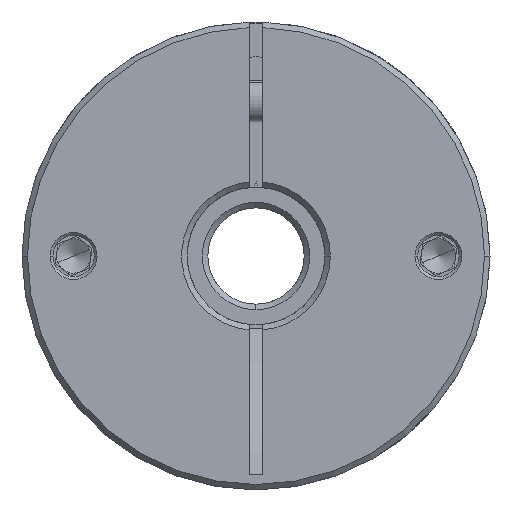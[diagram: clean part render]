
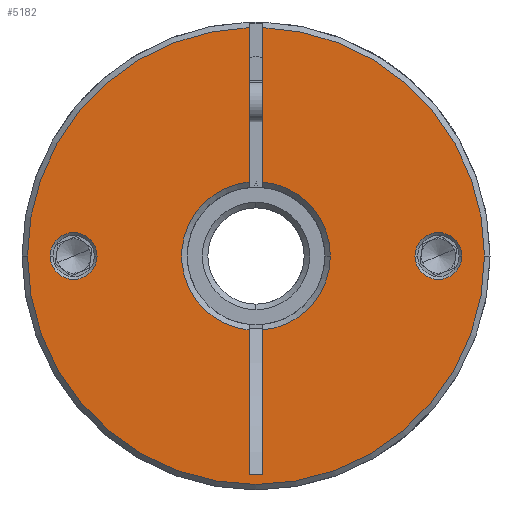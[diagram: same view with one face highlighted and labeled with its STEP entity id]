
A CAD part, front view. The second image highlights one B-rep face of the part: STEP entity #5182.
In plain terms, the highlighted planar face has unit normal (0, -1, 0).
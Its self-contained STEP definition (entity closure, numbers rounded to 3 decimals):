
#14 = CARTESIAN_POINT ( 'NONE',  ( -3.735, -47.045, 36.279 ) ) ;
#47 = VECTOR ( 'NONE', #4157, 1000. ) ;
#48 = AXIS2_PLACEMENT_3D ( 'NONE', #8144, #10323, #11430 ) ;
#76 = EDGE_CURVE ( 'NONE', #8472, #11992, #10168, .T. ) ;
#113 = EDGE_CURVE ( 'NONE', #2655, #11622, #7680, .T. ) ;
#142 = CARTESIAN_POINT ( 'NONE',  ( -35.935, -47.045, 68. ) ) ;
#325 = ORIENTED_EDGE ( 'NONE', *, *, #4944, .T. ) ;
#333 = LINE ( 'NONE', #9952, #10366 ) ;
#341 = DIRECTION ( 'NONE',  ( 1., 0., 0. ) ) ;
#368 = CIRCLE ( 'NONE', #664, 10.8 ) ;
#401 = AXIS2_PLACEMENT_3D ( 'NONE', #4446, #1443, #8761 ) ;
#582 = LINE ( 'NONE', #13014, #10116 ) ;
#654 = CARTESIAN_POINT ( 'NONE',  ( -32.635, -47.045, 68. ) ) ;
#664 = AXIS2_PLACEMENT_3D ( 'NONE', #4109, #956, #11479 ) ;
#808 = CARTESIAN_POINT ( 'NONE',  ( -1.735, -47.045, 36.279 ) ) ;
#956 = DIRECTION ( 'NONE',  ( 0., 1., 0. ) ) ;
#966 = ORIENTED_EDGE ( 'NONE', *, *, #1874, .F. ) ;
#1007 = AXIS2_PLACEMENT_3D ( 'NONE', #3441, #6648, #341 ) ;
#1041 = CIRCLE ( 'NONE', #5255, 3.4 ) ;
#1067 = LINE ( 'NONE', #3018, #3210 ) ;
#1408 = DIRECTION ( 'NONE',  ( 0., 0., -1. ) ) ;
#1443 = DIRECTION ( 'NONE',  ( 0., -1., 0. ) ) ;
#1612 = CARTESIAN_POINT ( 'NONE',  ( -3.735, -47.045, 57.246 ) ) ;
#1728 = ORIENTED_EDGE ( 'NONE', *, *, #113, .T. ) ;
#1874 = EDGE_CURVE ( 'NONE', #2655, #6234, #333, .T. ) ;
#1984 = ORIENTED_EDGE ( 'NONE', *, *, #2578, .T. ) ;
#1990 = AXIS2_PLACEMENT_3D ( 'NONE', #6174, #7276, #12584 ) ;
#2110 = VERTEX_POINT ( 'NONE', #808 ) ;
#2283 = EDGE_CURVE ( 'NONE', #4633, #13135, #2802, .T. ) ;
#2578 = EDGE_CURVE ( 'NONE', #3960, #6234, #6030, .T. ) ;
#2655 = VERTEX_POINT ( 'NONE', #9495 ) ;
#2791 = AXIS2_PLACEMENT_3D ( 'NONE', #6140, #5034, #5993 ) ;
#2802 = CIRCLE ( 'NONE', #8041, 3.4 ) ;
#2813 = EDGE_LOOP ( 'NONE', ( #966, #1728, #12041, #10898, #3208, #325, #2907, #7161, #12539, #5077, #1984 ) ) ;
#2907 = ORIENTED_EDGE ( 'NONE', *, *, #7741, .T. ) ;
#3018 = CARTESIAN_POINT ( 'NONE',  ( -3.735, -47.045, 36.279 ) ) ;
#3034 = CARTESIAN_POINT ( 'NONE',  ( -3.735, -47.045, 78.754 ) ) ;
#3054 = FACE_OUTER_BOUND ( 'NONE', #2813, .T. ) ;
#3170 = DIRECTION ( 'NONE',  ( 0., 0., -1. ) ) ;
#3208 = ORIENTED_EDGE ( 'NONE', *, *, #11411, .T. ) ;
#3210 = VECTOR ( 'NONE', #4136, 1000. ) ;
#3282 = VERTEX_POINT ( 'NONE', #6655 ) ;
#3441 = CARTESIAN_POINT ( 'NONE',  ( -2.735, -47.045, 68. ) ) ;
#3795 = CARTESIAN_POINT ( 'NONE',  ( 23.765, -47.045, 68. ) ) ;
#3925 = DIRECTION ( 'NONE',  ( 0., 1., 0. ) ) ;
#3960 = VERTEX_POINT ( 'NONE', #1612 ) ;
#4109 = CARTESIAN_POINT ( 'NONE',  ( -2.735, -47.045, 68. ) ) ;
#4136 = DIRECTION ( 'NONE',  ( -1., 0., 0. ) ) ;
#4157 = DIRECTION ( 'NONE',  ( 0., 0., -1. ) ) ;
#4350 = CARTESIAN_POINT ( 'NONE',  ( -25.835, -47.045, 68. ) ) ;
#4367 = DIRECTION ( 'NONE',  ( 1., 0., 0. ) ) ;
#4446 = CARTESIAN_POINT ( 'NONE',  ( -2.735, -47.045, 68. ) ) ;
#4456 = CARTESIAN_POINT ( 'NONE',  ( 20.365, -47.045, 68. ) ) ;
#4536 = DIRECTION ( 'NONE',  ( 1., 0., 0. ) ) ;
#4571 = EDGE_LOOP ( 'NONE', ( #9339, #13523 ) ) ;
#4633 = VERTEX_POINT ( 'NONE', #13202 ) ;
#4861 = EDGE_CURVE ( 'NONE', #8452, #12009, #13582, .T. ) ;
#4944 = EDGE_CURVE ( 'NONE', #12106, #6675, #11930, .T. ) ;
#4970 = EDGE_CURVE ( 'NONE', #3960, #10982, #582, .T. ) ;
#5034 = DIRECTION ( 'NONE',  ( 0., -1., 0. ) ) ;
#5069 = DIRECTION ( 'NONE',  ( 1., 0., 0. ) ) ;
#5077 = ORIENTED_EDGE ( 'NONE', *, *, #4970, .F. ) ;
#5173 = CARTESIAN_POINT ( 'NONE',  ( -1.735, -47.045, 68. ) ) ;
#5182 = ADVANCED_FACE ( 'NONE', ( #7286, #5292, #3054 ), #12313, .T. ) ;
#5186 = CARTESIAN_POINT ( 'NONE',  ( -2.735, -47.045, 68. ) ) ;
#5255 = AXIS2_PLACEMENT_3D ( 'NONE', #9517, #7443, #4367 ) ;
#5292 = FACE_BOUND ( 'NONE', #4571, .T. ) ;
#5302 = CIRCLE ( 'NONE', #1990, 33.2 ) ;
#5611 = CARTESIAN_POINT ( 'NONE',  ( -2.735, -47.045, 68. ) ) ;
#5730 = DIRECTION ( 'NONE',  ( 0., 0., -1. ) ) ;
#5879 = AXIS2_PLACEMENT_3D ( 'NONE', #3795, #3925, #12389 ) ;
#5993 = DIRECTION ( 'NONE',  ( 1., 0., 0. ) ) ;
#6030 = CIRCLE ( 'NONE', #10611, 10.8 ) ;
#6140 = CARTESIAN_POINT ( 'NONE',  ( -2.735, -47.045, 68. ) ) ;
#6174 = CARTESIAN_POINT ( 'NONE',  ( -2.735, -47.045, 68. ) ) ;
#6234 = VERTEX_POINT ( 'NONE', #3034 ) ;
#6499 = CARTESIAN_POINT ( 'NONE',  ( -1.735, -47.045, 101.185 ) ) ;
#6548 = EDGE_CURVE ( 'NONE', #2110, #10982, #1067, .T. ) ;
#6601 = DIRECTION ( 'NONE',  ( 0., -1., 0. ) ) ;
#6648 = DIRECTION ( 'NONE',  ( 0., 1., 0. ) ) ;
#6655 = CARTESIAN_POINT ( 'NONE',  ( -1.735, -47.045, 57.246 ) ) ;
#6675 = VERTEX_POINT ( 'NONE', #12280 ) ;
#6987 = EDGE_CURVE ( 'NONE', #12009, #8452, #1041, .T. ) ;
#7161 = ORIENTED_EDGE ( 'NONE', *, *, #7724, .T. ) ;
#7169 = EDGE_LOOP ( 'NONE', ( #10235, #13165 ) ) ;
#7276 = DIRECTION ( 'NONE',  ( 0., -1., 0. ) ) ;
#7286 = FACE_BOUND ( 'NONE', #7169, .T. ) ;
#7443 = DIRECTION ( 'NONE',  ( 0., 1., 0. ) ) ;
#7680 = CIRCLE ( 'NONE', #11604, 33.2 ) ;
#7724 = EDGE_CURVE ( 'NONE', #3282, #2110, #8885, .T. ) ;
#7741 = EDGE_CURVE ( 'NONE', #6675, #3282, #368, .T. ) ;
#8041 = AXIS2_PLACEMENT_3D ( 'NONE', #8678, #9756, #4536 ) ;
#8144 = CARTESIAN_POINT ( 'NONE',  ( -29.235, -47.045, 68. ) ) ;
#8178 = CARTESIAN_POINT ( 'NONE',  ( 30.465, -47.045, 68. ) ) ;
#8452 = VERTEX_POINT ( 'NONE', #654 ) ;
#8472 = VERTEX_POINT ( 'NONE', #8178 ) ;
#8678 = CARTESIAN_POINT ( 'NONE',  ( 23.765, -47.045, 68. ) ) ;
#8761 = DIRECTION ( 'NONE',  ( 1., 0., 0. ) ) ;
#8885 = LINE ( 'NONE', #5173, #47 ) ;
#8933 = VECTOR ( 'NONE', #3170, 1000. ) ;
#9159 = CARTESIAN_POINT ( 'NONE',  ( -1.735, -47.045, 68. ) ) ;
#9339 = ORIENTED_EDGE ( 'NONE', *, *, #6987, .T. ) ;
#9495 = CARTESIAN_POINT ( 'NONE',  ( -3.735, -47.045, 101.185 ) ) ;
#9517 = CARTESIAN_POINT ( 'NONE',  ( -29.235, -47.045, 68. ) ) ;
#9595 = EDGE_CURVE ( 'NONE', #13135, #4633, #10484, .T. ) ;
#9756 = DIRECTION ( 'NONE',  ( 0., 1., 0. ) ) ;
#9952 = CARTESIAN_POINT ( 'NONE',  ( -3.735, -47.045, 68. ) ) ;
#10116 = VECTOR ( 'NONE', #1408, 1000. ) ;
#10168 = CIRCLE ( 'NONE', #401, 33.2 ) ;
#10235 = ORIENTED_EDGE ( 'NONE', *, *, #2283, .T. ) ;
#10272 = LINE ( 'NONE', #9159, #8933 ) ;
#10323 = DIRECTION ( 'NONE',  ( 0., 1., 0. ) ) ;
#10366 = VECTOR ( 'NONE', #5730, 1000. ) ;
#10484 = CIRCLE ( 'NONE', #5879, 3.4 ) ;
#10611 = AXIS2_PLACEMENT_3D ( 'NONE', #5186, #12498, #5069 ) ;
#10742 = CARTESIAN_POINT ( 'NONE',  ( -1.735, -47.045, 78.754 ) ) ;
#10840 = DIRECTION ( 'NONE',  ( 1., 0., 0. ) ) ;
#10898 = ORIENTED_EDGE ( 'NONE', *, *, #76, .T. ) ;
#10916 = EDGE_CURVE ( 'NONE', #11622, #8472, #5302, .T. ) ;
#10982 = VERTEX_POINT ( 'NONE', #14 ) ;
#11411 = EDGE_CURVE ( 'NONE', #11992, #12106, #10272, .T. ) ;
#11430 = DIRECTION ( 'NONE',  ( 1., 0., 0. ) ) ;
#11479 = DIRECTION ( 'NONE',  ( 1., 0., 0. ) ) ;
#11604 = AXIS2_PLACEMENT_3D ( 'NONE', #5611, #6601, #10840 ) ;
#11622 = VERTEX_POINT ( 'NONE', #142 ) ;
#11930 = CIRCLE ( 'NONE', #1007, 10.8 ) ;
#11992 = VERTEX_POINT ( 'NONE', #6499 ) ;
#12009 = VERTEX_POINT ( 'NONE', #4350 ) ;
#12041 = ORIENTED_EDGE ( 'NONE', *, *, #10916, .T. ) ;
#12106 = VERTEX_POINT ( 'NONE', #10742 ) ;
#12280 = CARTESIAN_POINT ( 'NONE',  ( 8.065, -47.045, 68. ) ) ;
#12313 = PLANE ( 'NONE',  #2791 ) ;
#12389 = DIRECTION ( 'NONE',  ( 1., 0., 0. ) ) ;
#12498 = DIRECTION ( 'NONE',  ( 0., 1., 0. ) ) ;
#12539 = ORIENTED_EDGE ( 'NONE', *, *, #6548, .T. ) ;
#12584 = DIRECTION ( 'NONE',  ( 1., 0., 0. ) ) ;
#13014 = CARTESIAN_POINT ( 'NONE',  ( -3.735, -47.045, 68. ) ) ;
#13135 = VERTEX_POINT ( 'NONE', #4456 ) ;
#13165 = ORIENTED_EDGE ( 'NONE', *, *, #9595, .T. ) ;
#13202 = CARTESIAN_POINT ( 'NONE',  ( 27.165, -47.045, 68. ) ) ;
#13523 = ORIENTED_EDGE ( 'NONE', *, *, #4861, .T. ) ;
#13582 = CIRCLE ( 'NONE', #48, 3.4 ) ;
